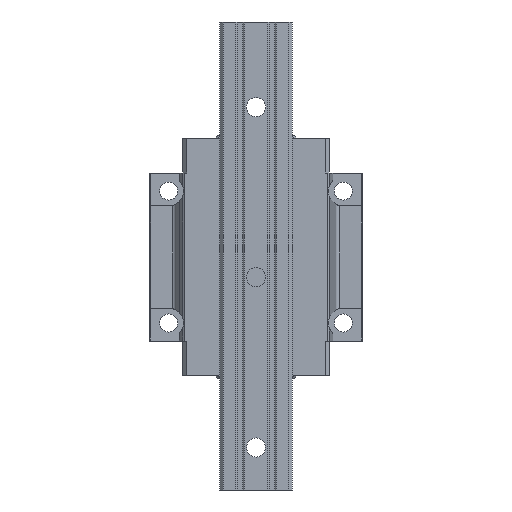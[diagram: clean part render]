
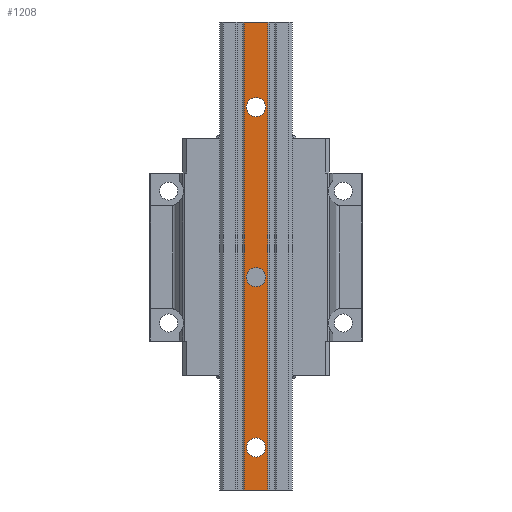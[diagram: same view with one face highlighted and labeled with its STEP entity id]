
A CAD part, front view. The second image highlights one B-rep face of the part: STEP entity #1208.
In plain terms, the highlighted planar face has unit normal (0, -1, 0).
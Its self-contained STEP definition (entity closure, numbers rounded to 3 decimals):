
#1208=ADVANCED_FACE('',(#3427,#3428,#3429,#3430),#1690,.T.);
#1690=PLANE('',#9108);
#1913=LINE('',#11788,#2609);
#1914=LINE('',#11791,#2610);
#1915=LINE('',#11793,#2611);
#1916=LINE('',#11795,#2612);
#2609=VECTOR('',#9732,1.);
#2610=VECTOR('',#9733,1.);
#2611=VECTOR('',#9734,1.);
#2612=VECTOR('',#9735,1.);
#3427=FACE_BOUND('',#3593,.T.);
#3428=FACE_BOUND('',#3594,.T.);
#3429=FACE_BOUND('',#3595,.T.);
#3430=FACE_BOUND('',#3596,.T.);
#3593=EDGE_LOOP('',(#4172,#4173,#4174,#4175));
#3594=EDGE_LOOP('',(#4176));
#3595=EDGE_LOOP('',(#4177));
#3596=EDGE_LOOP('',(#4178));
#4172=ORIENTED_EDGE('',*,*,#7581,.F.);
#4173=ORIENTED_EDGE('',*,*,#7582,.F.);
#4174=ORIENTED_EDGE('',*,*,#7583,.T.);
#4175=ORIENTED_EDGE('',*,*,#7584,.T.);
#4176=ORIENTED_EDGE('',*,*,#7585,.T.);
#4177=ORIENTED_EDGE('',*,*,#7586,.T.);
#4178=ORIENTED_EDGE('',*,*,#7587,.T.);
#6710=VERTEX_POINT('',#11789);
#6711=VERTEX_POINT('',#11790);
#6712=VERTEX_POINT('',#11792);
#6713=VERTEX_POINT('',#11794);
#6714=VERTEX_POINT('',#11797);
#6715=VERTEX_POINT('',#11799);
#6716=VERTEX_POINT('',#11801);
#7581=EDGE_CURVE('',#6710,#6711,#1913,.T.);
#7582=EDGE_CURVE('',#6712,#6710,#1914,.T.);
#7583=EDGE_CURVE('',#6712,#6713,#1915,.T.);
#7584=EDGE_CURVE('',#6713,#6711,#1916,.T.);
#7585=EDGE_CURVE('',#6714,#6714,#8846,.T.);
#7586=EDGE_CURVE('',#6715,#6715,#8847,.T.);
#7587=EDGE_CURVE('',#6716,#6716,#8848,.T.);
#8846=CIRCLE('',#9105,4.5);
#8847=CIRCLE('',#9106,4.5);
#8848=CIRCLE('',#9107,4.5);
#9105=AXIS2_PLACEMENT_3D('',#11796,#9736,#9737);
#9106=AXIS2_PLACEMENT_3D('',#11798,#9738,#9739);
#9107=AXIS2_PLACEMENT_3D('',#11800,#9740,#9741);
#9108=AXIS2_PLACEMENT_3D('',#11802,#9742,#9743);
#9732=DIRECTION('',(-1.,0.,0.));
#9733=DIRECTION('',(0.,0.,-1.));
#9734=DIRECTION('',(-1.,0.,0.));
#9735=DIRECTION('',(0.,0.,-1.));
#9736=DIRECTION('',(0.,1.,0.));
#9737=DIRECTION('',(0.,0.,-1.));
#9738=DIRECTION('',(0.,1.,0.));
#9739=DIRECTION('',(0.,0.,-1.));
#9740=DIRECTION('',(0.,1.,0.));
#9741=DIRECTION('',(0.,0.,-1.));
#9742=DIRECTION('',(0.,-1.,0.));
#9743=DIRECTION('',(0.,0.,-1.));
#11788=CARTESIAN_POINT('',(1.708,-14.083,80.));
#11789=CARTESIAN_POINT('',(1.708,-14.083,80.));
#11790=CARTESIAN_POINT('',(-9.302,-14.083,80.));
#11791=CARTESIAN_POINT('',(1.708,-14.083,300.));
#11792=CARTESIAN_POINT('',(1.708,-14.083,300.));
#11793=CARTESIAN_POINT('',(1.708,-14.083,300.));
#11794=CARTESIAN_POINT('',(-9.302,-14.083,300.));
#11795=CARTESIAN_POINT('',(-9.302,-14.083,300.));
#11796=CARTESIAN_POINT('',(-3.797,-14.083,100.));
#11797=CARTESIAN_POINT('',(-3.797,-14.083,95.5));
#11798=CARTESIAN_POINT('',(-3.797,-14.083,260.));
#11799=CARTESIAN_POINT('',(-3.797,-14.083,255.5));
#11800=CARTESIAN_POINT('',(-3.797,-14.083,180.));
#11801=CARTESIAN_POINT('',(-3.797,-14.083,175.5));
#11802=CARTESIAN_POINT('',(1.708,-14.083,300.));
